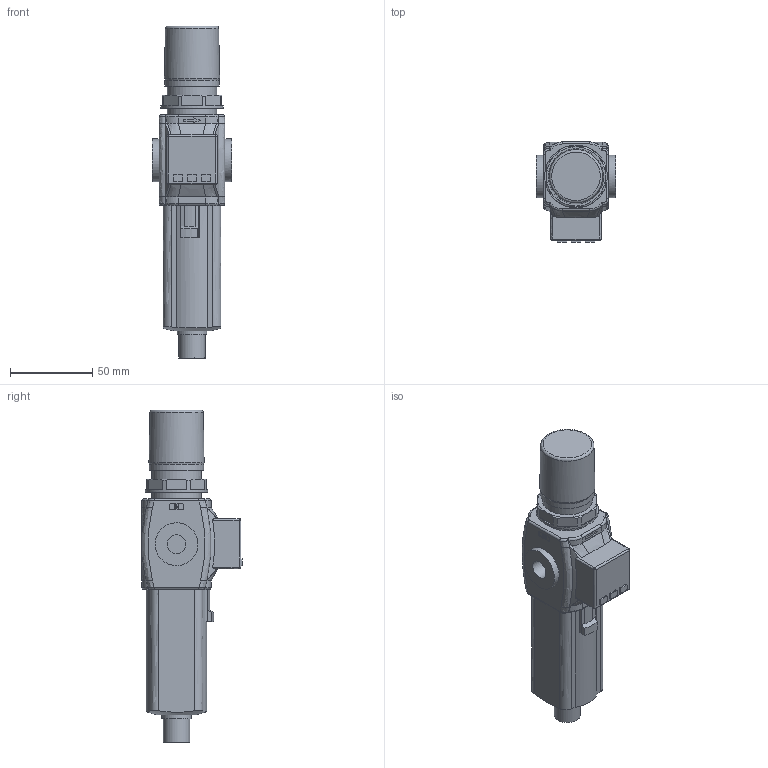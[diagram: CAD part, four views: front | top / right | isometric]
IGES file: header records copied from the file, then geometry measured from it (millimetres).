
Global section: file name: No Iges File Name specified; native system: Autodesk Inventor 2013; preprocessor: AutoDesk Inventor Iges Exporter R2013; author: valotma1; date: 20130924.133846; units: millimetre
Bounding box: 48 x 60.8 x 201.6 mm (x, y, z)
Volume: 245574.9 mm3; surface area: 37798.6 mm2
Topology: 2 solids, 3 shells, 391 faces, 938 edges, 595 vertices
Faces by surface type: bspline 391
